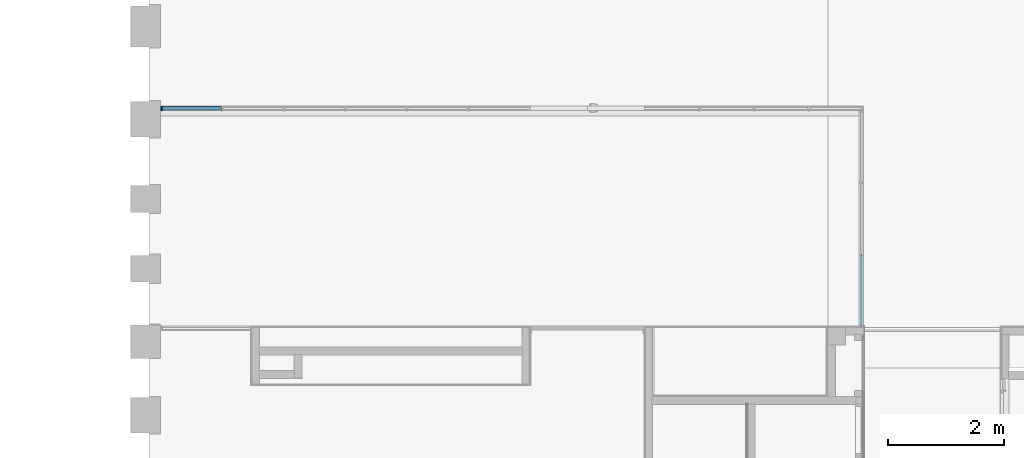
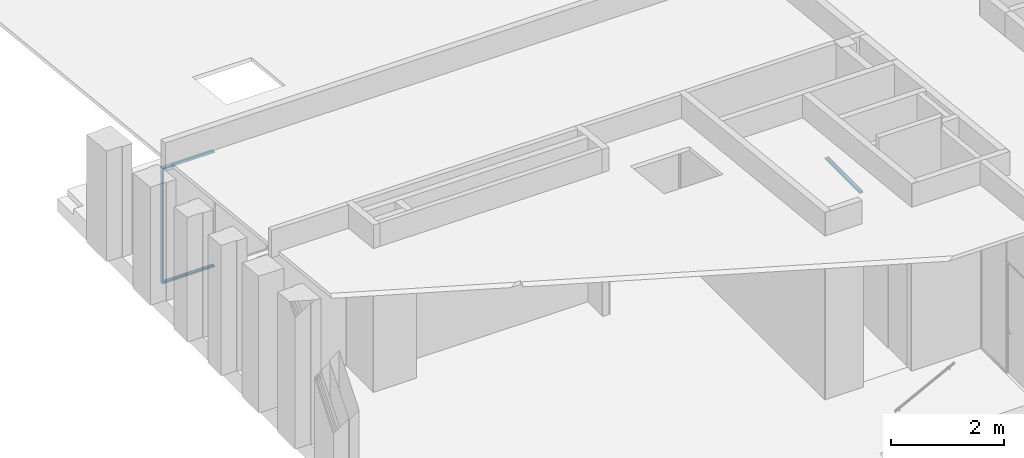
# One storey, part 13 of 43: 4 members, 2 elements without a shape of their own.
"""IFC2X3 building model written with IfcOpenShell, lengths in millimetres."""

import ifcopenshell
import ifcopenshell.guid

model = None  # the IFC model being written
_history = None  # IfcOwnerHistory: only IFC2X3 demands one
_inside = {}  # id of a spatial element -> (the spatial element, [elements in it])
_under = {}  # id of a project, library or spatial element -> (it, [spatial elements below it])
_declared = {}  # id of a project -> (the project, [libraries it declares])
_typed = {}  # id of a type object -> (the type object, [elements of that type])
_made_of = {}  # id of a material, layer set ... -> (it, [elements and type objects made of it])


def new_model(schema):
    """Start an empty IFC model of exactly this schema.

    Asked for "IFC4X3", IfcOpenShell would pick the latest addendum, in which some entities
    have other attributes; the version numbers below select the first issue.
    IFC2X3 requires an IfcOwnerHistory on every rooted entity: one is made here for all.
    """
    global model, _history
    if schema == "IFC4X3":
        model = ifcopenshell.file(schema_version=(4, 3, 0, 0))
    else:
        model = ifcopenshell.file(schema=schema)
    _inside.clear()
    _under.clear()
    _declared.clear()
    _typed.clear()
    _made_of.clear()
    _history = None
    if model.schema == "IFC2X3":
        org = make("IfcOrganization", Name="unknown")
        user = make(
            "IfcPersonAndOrganization",
            ThePerson=make("IfcPerson", FamilyName="unknown"),
            TheOrganization=org,
        )
        app = make(
            "IfcApplication",
            ApplicationDeveloper=org,
            Version="unknown",
            ApplicationFullName="unknown",
            ApplicationIdentifier="unknown",
        )
        _history = make(
            "IfcOwnerHistory",
            OwningUser=user,
            OwningApplication=app,
            ChangeAction="ADDED",
            CreationDate=0,
        )
    return model


def make(cls, **values):
    """One entity of the class cls with the attributes given. An attribute that is None is left unset."""
    return model.create_entity(
        cls, **{name: value for name, value in values.items() if value is not None}
    )


def entity(cls, *values):
    """Any entity or typed value of the class cls, its attributes in the order of the schema. None: left unset."""
    e = model.create_entity(cls)
    for i, value in enumerate(values):
        if value is not None:
            e[i] = value
    return e


def rooted(cls, **values):
    """An entity with a GlobalId (a new one), such as an element, a storey or a relation."""
    return make(cls, GlobalId=ifcopenshell.guid.new(), OwnerHistory=_history, **values)


def si_unit(unit_type, name, prefix=None):
    """IfcSIUnit, for example si_unit("LENGTHUNIT", "METRE", prefix="MILLI")."""
    return make("IfcSIUnit", UnitType=unit_type, Prefix=prefix, Name=name)


def converted_unit(unit_type, name, factor, base, dimensions=None, offset=None):
    """IfcConversionBasedUnit, such as the inch: factor (a typed value) times the base unit."""
    return make(
        "IfcConversionBasedUnit"
        if offset is None
        else "IfcConversionBasedUnitWithOffset",
        ConversionOffset=offset,
        Dimensions=None
        if dimensions is None
        else entity("IfcDimensionalExponents", *dimensions),
        UnitType=unit_type,
        Name=name,
        ConversionFactor=make(
            "IfcMeasureWithUnit", ValueComponent=factor, UnitComponent=base
        ),
    )


def derived_unit(unit_type, elements):
    """IfcDerivedUnit: a product of units, each with its exponent."""
    return make(
        "IfcDerivedUnit",
        Elements=[
            make("IfcDerivedUnitElement", Unit=unit, Exponent=power)
            for unit, power in elements
        ],
        UnitType=unit_type,
    )


def money_unit(currency):
    """IfcMonetaryUnit."""
    return make("IfcMonetaryUnit", Currency=currency)


def assignment(units):
    """IfcUnitAssignment: the units of a project."""
    return None if units is None else make("IfcUnitAssignment", Units=units)


def point(xyz):
    """IfcCartesianPoint."""
    return None if xyz is None else make("IfcCartesianPoint", Coordinates=xyz)


def direction(xyz):
    """IfcDirection."""
    return None if xyz is None else make("IfcDirection", DirectionRatios=xyz)


def frame(location, z_axis=None, x_axis=None):
    """IfcAxis2Placement3D, a coordinate frame: its origin and axes. An axis left out is left unset."""
    return make(
        "IfcAxis2Placement3D",
        Location=point(location),
        Axis=direction(z_axis),
        RefDirection=direction(x_axis),
    )


def origin_with_axes():
    """The frame at (0, 0, 0) with the z axis (0, 0, 1) and the x axis (1, 0, 0) written out."""
    return frame((0.0, 0.0, 0.0), z_axis=(0.0, 0.0, 1.0), x_axis=(1.0, 0.0, 0.0))


def place(relative_to, where):
    """IfcLocalPlacement: puts the frame where relative to a parent placement (None: the world)."""
    return make(
        "IfcLocalPlacement", PlacementRelTo=relative_to, RelativePlacement=where
    )


def context(
    kind, dimensions, precision=None, world=None, true_north=None, identifier=None
):
    """IfcGeometricRepresentationContext, for example the 3D "Model" context."""
    return make(
        "IfcGeometricRepresentationContext",
        ContextIdentifier=identifier,
        ContextType=kind,
        CoordinateSpaceDimension=dimensions,
        Precision=precision,
        WorldCoordinateSystem=world,
        TrueNorth=true_north,
    )


def subcontext(parent, identifier, kind, view, scale=None):
    """IfcGeometricRepresentationSubContext, for example "Body" below "Model"."""
    return make(
        "IfcGeometricRepresentationSubContext",
        ContextIdentifier=identifier,
        ContextType=kind,
        ParentContext=parent,
        TargetScale=scale,
        TargetView=view,
    )


def project(units=None, contexts=None):
    """IfcProject with its units and contexts."""
    return rooted(
        "IfcProject",
        Name="project",
        RepresentationContexts=contexts,
        UnitsInContext=assignment(units),
    )


def spatial(cls, under=None, at=None, **own):
    """A site, building, storey or space (cls), placed at a placement, below another one or the project."""
    s = rooted(cls, ObjectPlacement=at, **own)
    if under is not None:
        _under.setdefault(under.id(), (under, []))[1].append(s)
    return s


def faces_of(points, faces, orient=None, outer=None):
    """IfcFace entities. A face is a list of loops; a loop is a list of indices into points, from 0.

    orient and outer hold one flag for each loop. By default every Orientation is true, the
    first loop of a face is its IfcFaceOuterBound and the others are IfcFaceBound.
    """
    made = []
    for i, loops in enumerate(faces):
        bounds = []
        for j, loop in enumerate(loops):
            is_outer = j == 0 if outer is None else outer[i][j]
            bounds.append(
                make(
                    "IfcFaceOuterBound" if is_outer else "IfcFaceBound",
                    Bound=make("IfcPolyLoop", Polygon=[points[k] for k in loop]),
                    Orientation=True if orient is None else orient[i][j],
                )
            )
        made.append(make("IfcFace", Bounds=bounds))
    return made


def faceted_brep(points, faces, orient=None, outer=None, voids=None):
    """IfcFacetedBrep: a solid bounded by flat faces; with voids (closed shells), ...WithVoids."""
    shared = [point(p) for p in points]
    hull = make("IfcClosedShell", CfsFaces=faces_of(shared, faces, orient, outer))
    if voids is None:
        return make("IfcFacetedBrep", Outer=hull)
    return make(
        "IfcFacetedBrepWithVoids",
        Outer=hull,
        Voids=[
            make(cls, CfsFaces=faces_of(shared, fs, o, b)) for cls, fs, o, b in voids
        ],
    )


def shape(context_of_items, identifier, shape_type, items):
    """IfcShapeRepresentation: the items that make up one representation, for example the "Body"."""
    return make(
        "IfcShapeRepresentation",
        ContextOfItems=context_of_items,
        RepresentationIdentifier=identifier,
        RepresentationType=shape_type,
        Items=items,
    )


def material(Name=None, Category=None):
    """IfcMaterial."""
    return make("IfcMaterial", Name=Name, Category=Category)


def material_list(materials):
    """IfcMaterialList."""
    return make("IfcMaterialList", Materials=materials)


def made_of(thing, what):
    """Note that an element or type object is made of a material, layer set ...; save() writes the relation."""
    if what is not None:
        _made_of.setdefault(what.id(), (what, []))[1].append(thing)
    return thing


def type_object(cls, material=None, **own):
    """A type object (cls), such as IfcWallType, which elements share."""
    return made_of(rooted(cls, **own), material)


def element(
    cls,
    number,
    at=None,
    inside=None,
    cuts=None,
    type_object=None,
    material=None,
    context=None,
    identifier="Body",
    shape_type=None,
    held_by="IfcProductDefinitionShape",
    body=None,
    shapes=None,
    **own,
):
    """One element of the class cls, such as IfcWall. Its Tag is "e" and its number.

    at: its placement. inside: the storey or other place that contains it. cuts: it is an
    opening in that element (IfcRelVoidsElement). A single representation is given by context,
    identifier, shape_type and body (its items); several are given by shapes. held_by: the class
    of the entity that holds the representations. save() writes the other relations.
    """
    e = rooted(cls, Tag="e%d" % number, ObjectPlacement=at, **own)
    if body is not None:
        shapes = [shape(context, identifier, shape_type, body)]
    if shapes is not None:
        e.Representation = make(held_by, Representations=shapes)
    if inside is not None:
        _inside.setdefault(inside.id(), (inside, []))[1].append(e)
    if cuts is not None:
        rooted(
            "IfcRelVoidsElement", RelatingBuildingElement=cuts, RelatedOpeningElement=e
        )
    if type_object is not None:
        _typed.setdefault(type_object.id(), (type_object, []))[1].append(e)
    return made_of(e, material)


def aggregate(whole, parts):
    """IfcRelAggregates: a whole, such as a stair, and the parts it consists of."""
    return rooted("IfcRelAggregates", RelatingObject=whole, RelatedObjects=parts)


def save(model, path):
    """Write the relations noted so far, then the file.

    IfcRelAggregates (storeys below a building ...), IfcRelContainedInSpatialStructure (elements
    in a storey), IfcRelDefinesByType, IfcRelAssociatesMaterial and IfcRelDeclares: one each for
    every whole, place, type object, material and project.
    """
    for whole, parts in _under.values():
        aggregate(whole, parts)
    for where, things in _inside.values():
        rooted(
            "IfcRelContainedInSpatialStructure",
            RelatedElements=things,
            RelatingStructure=where,
        )
    for kind, things in _typed.values():
        rooted("IfcRelDefinesByType", RelatedObjects=things, RelatingType=kind)
    for what, things in _made_of.values():
        rooted("IfcRelAssociatesMaterial", RelatedObjects=things, RelatingMaterial=what)
    for by, libraries in _declared.values():
        rooted("IfcRelDeclares", RelatingContext=by, RelatedDefinitions=libraries)
    model.write(path)


model = new_model("IFC2X3")

# Units and contexts
model_context = context("Model", 3, precision=0.01, world=origin_with_axes(), true_north=direction((0.0, 1.0)))
body_context = subcontext(model_context, "Body", "Model", "MODEL_VIEW")
ifc_project = project(units=[si_unit("LENGTHUNIT", "METRE", prefix="MILLI"), si_unit("AREAUNIT", "SQUARE_METRE"), si_unit("VOLUMEUNIT", "CUBIC_METRE"), converted_unit("PLANEANGLEUNIT", "DEGREE", entity("IfcPlaneAngleMeasure", 0.0174532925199), si_unit("PLANEANGLEUNIT", "RADIAN"), dimensions=[0, 0, 0, 0, 0, 0, 0]), si_unit("SOLIDANGLEUNIT", "STERADIAN"), money_unit("EUR"), converted_unit("TIMEUNIT", "Year", entity("IfcTimeMeasure", 31556926.0), si_unit("TIMEUNIT", "SECOND"), dimensions=[0, 0, 1, 0, 0, 0, 0]), si_unit("MASSUNIT", "GRAM", prefix="KILO"), si_unit("THERMODYNAMICTEMPERATUREUNIT", "DEGREE_CELSIUS"), si_unit("LUMINOUSINTENSITYUNIT", "LUMEN"), si_unit("ENERGYUNIT", "JOULE", prefix="MEGA"), derived_unit("THERMALCONDUCTANCEUNIT", [(si_unit("POWERUNIT", "WATT"), 1), (si_unit("LENGTHUNIT", "METRE"), -1), (si_unit("THERMODYNAMICTEMPERATUREUNIT", "KELVIN"), -1)]), derived_unit("SPECIFICHEATCAPACITYUNIT", [(si_unit("ENERGYUNIT", "JOULE"), 1), (si_unit("MASSUNIT", "GRAM", prefix="KILO"), -1), (si_unit("THERMODYNAMICTEMPERATUREUNIT", "KELVIN"), -1)]), derived_unit("MASSDENSITYUNIT", [(si_unit("MASSUNIT", "GRAM", prefix="KILO"), 1), (si_unit("VOLUMEUNIT", "CUBIC_METRE"), -1)])], contexts=[model_context])

# Site, building, storey
site_placement = place(None, origin_with_axes())
site = spatial("IfcSite", under=ifc_project, at=site_placement, Name="L.Koidula tn 11b", CompositionType="ELEMENT")
building_placement = place(site_placement, origin_with_axes())
building = spatial("IfcBuilding", under=site, at=building_placement, Name="Rakvere Riigigümnaasium", CompositionType="ELEMENT")
storey_placement = place(building_placement, frame((0.0, 0.0, 6665.0), z_axis=(0.0, 0.0, 1.0), x_axis=(1.0, 0.0, 0.0)))
storey = spatial("IfcBuildingStorey", under=building, at=storey_placement, Name="3.korrus +6,66", CompositionType="ELEMENT", Elevation=6665.0)

# Curtain wall, members
curtain_wall_type = type_object("IfcCurtainWallType", Name="Curtain Wall Type", PredefinedType="NOTDEFINED")
curtain_wall_1_placement = place(storey_placement, frame((45254.9999955, 28178.4554945, 0.0), z_axis=(0.0, 0.0, 1.0), x_axis=(1.0, 0.0, 0.0)))
curtain_wall_1 = element("IfcCurtainWall", 1, at=curtain_wall_1_placement, inside=storey, type_object=curtain_wall_type, Name="SKLF-26")
ifc_material_1 = material(Name="Klaasvill")
ifc_material_2 = material(Name="Teras RAL7012")
ifc_material_list = material_list([ifc_material_1, ifc_material_2])
member_type = type_object("IfcMemberType", Name="Boundary Frame 30 x 42", PredefinedType="MULLION")
member_1_placement = place(curtain_wall_1_placement, frame((-8694.0, 0.0, 0.0), z_axis=(-1.0, 0.0, 0.0), x_axis=(0.0, 0.0, 1.0)))
member_1 = element("IfcMember", 2, at=member_1_placement, type_object=member_type, material=ifc_material_list, Name="SKLF-22-raam", ObjectType="MULLION", context=body_context, shape_type="Brep", body=[
    faceted_brep([(7.49999990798, 15.000000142, 0.0), (13.8499999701, 15.000000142, 0.0), (13.8499999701, 15.000000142, 1047.15023765), (7.49999990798, 15.000000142, 1053.50023772), (7.49999990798, 29.0161444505, 0.0), (13.8499999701, 29.0161444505, 0.0), (13.8499999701, 29.0161444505, 1047.15023765), (7.49999990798, 29.0161444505, 1053.50023772)], [[[0, 1, 2, 3]], [[0, 4, 5, 1]], [[1, 5, 6, 2]], [[3, 2, 6, 7]], [[4, 0, 3, 7]], [[5, 4, 7, 6]]]),
    faceted_brep([(24.987414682, 29.0161444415, 0.0), (25.004489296, 27.0307503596, 0.0), (25.004489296, 27.0307503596, 1035.99574833), (24.987414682, 29.0161444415, 1036.01282294), (28.5126239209, 29.0161444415, 0.0), (28.7655837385, 28.0385325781, 0.0), (28.4955493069, 27.0307503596, 0.0), (27.75780152, 26.2930025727, 0.0), (26.7500193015, 26.0229681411, 0.0), (25.742237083, 26.2930025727, 0.0), (25.742237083, 26.2930025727, 1035.25800054), (26.7500193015, 26.0229681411, 1034.25021832), (27.75780152, 26.2930025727, 1033.24243611), (28.4955493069, 27.0307503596, 1032.50468832), (28.7655837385, 28.0385325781, 1032.23465389), (28.5126239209, 29.0161444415, 1032.4876137)], [[[0, 1, 2, 3]], [[0, 4, 5, 6, 7, 8, 9, 1]], [[1, 9, 10, 2]], [[3, 2, 10, 11, 12, 13, 14, 15]], [[4, 0, 3, 15]], [[5, 4, 15, 14]], [[6, 5, 14, 13]], [[7, 6, 13, 12]], [[8, 7, 12, 11]], [[9, 8, 11, 10]]]),
    faceted_brep([(7.49999990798, -24.9999997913, 0.0), (7.49999990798, -39.0161445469, 0.0), (7.49999990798, -39.0161445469, 1053.50023772), (7.49999990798, -24.9999997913, 1053.50023772), (13.8499999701, -24.9999997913, 0.0), (13.8499999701, -39.0161445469, 0.0), (13.8499999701, -39.0161445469, 1047.15023765), (13.8499999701, -24.9999997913, 1047.15023765)], [[[0, 1, 2, 3]], [[0, 4, 5, 1]], [[1, 5, 6, 2]], [[3, 2, 6, 7]], [[4, 0, 3, 7]], [[5, 4, 7, 6]]]),
    faceted_brep([(25.004489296, -37.0307503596, 0.0), (24.987414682, -39.0161444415, 0.0), (24.987414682, -39.0161444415, 1036.01282294), (25.004489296, -37.0307503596, 1035.99574833), (25.742237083, -36.2930025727, 0.0), (26.7500193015, -36.0229681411, 0.0), (27.75780152, -36.2930025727, 0.0), (28.4955493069, -37.0307503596, 0.0), (28.7655837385, -38.0385325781, 0.0), (28.5126239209, -39.0161444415, 0.0), (28.5126239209, -39.0161444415, 1032.4876137), (28.7655837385, -38.0385325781, 1032.23465389), (28.4955493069, -37.0307503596, 1032.50468832), (27.75780152, -36.2930025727, 1033.24243611), (26.7500193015, -36.0229681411, 1034.25021832), (25.742237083, -36.2930025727, 1035.25800054)], [[[0, 1, 2, 3]], [[0, 4, 5, 6, 7, 8, 9, 1]], [[1, 9, 10, 2]], [[3, 2, 10, 11, 12, 13, 14, 15]], [[4, 0, 3, 15]], [[5, 4, 15, 14]], [[6, 5, 14, 13]], [[7, 6, 13, 12]], [[8, 7, 12, 11]], [[9, 8, 11, 10]]]),
    faceted_brep([(0.0, -22.0000000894, 0.0), (29.5999996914, -22.0000000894, 0.0), (29.5999996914, -22.0000000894, 1031.40023793), (0.0, -22.0000000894, 1061.00023763), (0.0, 12.0000000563, 0.0), (29.5999996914, 12.0000000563, 0.0), (1.9999999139, 10.0000001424, 0.0), (1.9999999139, -20.0000001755, 0.0), (18.7999996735, -20.0000001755, 0.0), (18.7999996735, 10.0000001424, 0.0), (29.5999996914, 12.0000000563, 1031.40023793), (0.0, 12.0000000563, 1061.00023763), (1.9999999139, 10.0000001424, 1059.00023771), (18.7999996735, 10.0000001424, 1042.20023795), (18.7999996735, -20.0000001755, 1042.20023795), (1.9999999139, -20.0000001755, 1059.00023771)], [[[0, 1, 2, 3]], [[0, 4, 5, 1], [6, 7, 8, 9]], [[1, 5, 10, 2]], [[3, 2, 10, 11], [12, 13, 14, 15]], [[4, 0, 3, 11]], [[5, 4, 11, 10]], [[7, 6, 12, 15]], [[8, 7, 15, 14]], [[9, 8, 14, 13]], [[6, 9, 13, 12]]]),
    faceted_brep([(0.0, 12.0, 0.0), (29.5999996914, 12.0000000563, 0.0), (29.5999996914, 12.0000000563, 1031.40023793), (0.0, 12.0, 1061.00023763), (0.0, 32.0, 0.0), (30.0000193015, 32.0, 0.0), (30.0000193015, 29.0161444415, 0.0), (28.5126239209, 29.0161444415, 0.0), (24.987414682, 29.0161444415, 0.0), (13.8499999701, 29.0161444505, 0.0), (7.49999999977, 29.0161444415, 0.0), (7.49999999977, 15.0, 0.0), (13.8499999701, 15.000000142, 0.0), (30.0000193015, 15.0, 0.0), (30.0000193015, 12.0, 0.0), (30.0000193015, 12.0, 1031.00021832), (30.0000193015, 15.0, 1031.00021832), (13.8499999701, 15.000000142, 1047.15023765), (7.49999999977, 15.0, 1053.50023763), (7.49999999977, 29.0161444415, 1053.50023763), (13.8499999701, 29.0161444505, 1047.15023765), (24.987414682, 29.0161444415, 1036.01282294), (28.5126239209, 29.0161444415, 1032.4876137), (30.0000193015, 29.0161444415, 1031.00021832), (30.0000193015, 32.0, 1031.00021832), (0.0, 32.0, 1061.00023763)], [[[0, 1, 2, 3]], [[0, 4, 5, 6, 7, 8, 9, 10, 11, 12, 13, 14, 1]], [[1, 14, 15, 2]], [[3, 2, 15, 16, 17, 18, 19, 20, 21, 22, 23, 24, 25]], [[4, 0, 3, 25]], [[5, 4, 25, 24]], [[6, 5, 24, 23]], [[7, 6, 23, 22]], [[8, 7, 22, 21]], [[9, 8, 21, 20]], [[10, 9, 20, 19]], [[11, 10, 19, 18]], [[12, 11, 18, 17]], [[13, 12, 17, 16]], [[14, 13, 16, 15]]]),
    faceted_brep([(0.0, -22.0, 0.0), (0.0, -42.0, 0.0), (0.0, -42.0, 1061.00023763), (0.0, -22.0, 1061.00023763), (29.5999996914, -22.0000000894, 0.0), (30.0000193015, -22.0, 0.0), (30.0000193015, -25.0, 0.0), (13.8499999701, -24.9999997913, 0.0), (7.49999999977, -25.0, 0.0), (7.49999999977, -39.0161444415, 0.0), (13.8499999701, -39.0161445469, 0.0), (24.987414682, -39.0161444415, 0.0), (28.5126239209, -39.0161444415, 0.0), (30.0000193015, -39.0161444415, 0.0), (30.0000193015, -42.0, 0.0), (30.0000193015, -42.0, 1031.00021832), (30.0000193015, -39.0161444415, 1031.00021832), (28.5126239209, -39.0161444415, 1032.4876137), (24.987414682, -39.0161444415, 1036.01282294), (13.8499999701, -39.0161445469, 1047.15023765), (7.49999999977, -39.0161444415, 1053.50023763), (7.49999999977, -25.0, 1053.50023763), (13.8499999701, -24.9999997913, 1047.15023765), (30.0000193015, -25.0, 1031.00021832), (30.0000193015, -22.0, 1031.00021832), (29.5999996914, -22.0000000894, 1031.40023793)], [[[0, 1, 2, 3]], [[0, 4, 5, 6, 7, 8, 9, 10, 11, 12, 13, 14, 1]], [[1, 14, 15, 2]], [[3, 2, 15, 16, 17, 18, 19, 20, 21, 22, 23, 24, 25]], [[4, 0, 3, 25]], [[5, 4, 25, 24]], [[6, 5, 24, 23]], [[7, 6, 23, 22]], [[8, 7, 22, 21]], [[9, 8, 21, 20]], [[10, 9, 20, 19]], [[11, 10, 19, 18]], [[12, 11, 18, 17]], [[13, 12, 17, 16]], [[14, 13, 16, 15]]]),
])
member_2_placement = place(curtain_wall_1_placement, frame((-9755.00023763, 0.0, 2489.99984217), z_axis=(1.0, 0.0, 0.0), x_axis=(0.0, 0.0, -1.0)))
member_2 = element("IfcMember", 3, at=member_2_placement, type_object=member_type, material=ifc_material_list, Name="SKLF-24-raam", ObjectType="MULLION", context=body_context, shape_type="Brep", body=[
    faceted_brep([(13.8499999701, 15.000000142, 13.8499999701), (13.8499999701, 15.000000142, 1061.00023763), (7.49999990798, 15.000000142, 1061.00023763), (7.49999990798, 15.000000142, 7.49999990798), (13.8499999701, 29.0161444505, 13.8499999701), (13.8499999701, 29.0161444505, 1061.00023763), (7.49999990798, 29.0161444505, 1061.00023763), (7.49999990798, 29.0161444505, 7.49999990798)], [[[0, 1, 2, 3]], [[4, 5, 1, 0]], [[2, 1, 5, 6]], [[3, 2, 6, 7]], [[3, 7, 4, 0]], [[7, 6, 5, 4]]]),
    faceted_brep([(25.004489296, 27.0307503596, 25.004489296), (25.004489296, 27.0307503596, 1061.00023763), (24.987414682, 29.0161444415, 1061.00023763), (24.987414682, 29.0161444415, 24.987414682), (25.742237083, 26.2930025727, 25.742237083), (25.742237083, 26.2930025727, 1061.00023763), (26.7500193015, 26.0229681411, 1061.00023763), (27.75780152, 26.2930025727, 1061.00023763), (28.4955493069, 27.0307503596, 1061.00023763), (28.7655837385, 28.0385325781, 1061.00023763), (28.5126239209, 29.0161444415, 1061.00023763), (28.5126239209, 29.0161444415, 28.5126239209), (28.7655837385, 28.0385325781, 28.7655837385), (28.4955493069, 27.0307503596, 28.4955493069), (27.75780152, 26.2930025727, 27.75780152), (26.7500193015, 26.0229681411, 26.7500193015)], [[[0, 1, 2, 3]], [[4, 5, 1, 0]], [[2, 1, 5, 6, 7, 8, 9, 10]], [[3, 2, 10, 11]], [[3, 11, 12, 13, 14, 15, 4, 0]], [[15, 6, 5, 4]], [[14, 7, 6, 15]], [[13, 8, 7, 14]], [[12, 9, 8, 13]], [[11, 10, 9, 12]]]),
    faceted_brep([(7.49999990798, -39.0161445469, 7.49999990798), (7.49999990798, -39.0161445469, 1061.00023763), (7.49999990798, -24.9999997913, 1061.00023763), (7.49999990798, -24.9999997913, 7.49999990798), (13.8499999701, -39.0161445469, 13.8499999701), (13.8499999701, -39.0161445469, 1061.00023763), (13.8499999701, -24.9999997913, 1061.00023763), (13.8499999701, -24.9999997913, 13.8499999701)], [[[0, 1, 2, 3]], [[4, 5, 1, 0]], [[2, 1, 5, 6]], [[3, 2, 6, 7]], [[3, 7, 4, 0]], [[7, 6, 5, 4]]]),
    faceted_brep([(24.987414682, -39.0161444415, 24.987414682), (24.987414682, -39.0161444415, 1061.00023763), (25.004489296, -37.0307503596, 1061.00023763), (25.004489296, -37.0307503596, 25.004489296), (28.5126239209, -39.0161444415, 28.5126239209), (28.5126239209, -39.0161444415, 1061.00023763), (28.7655837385, -38.0385325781, 1061.00023763), (28.4955493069, -37.0307503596, 1061.00023763), (27.75780152, -36.2930025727, 1061.00023763), (26.7500193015, -36.0229681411, 1061.00023763), (25.742237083, -36.2930025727, 1061.00023763), (25.742237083, -36.2930025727, 25.742237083), (26.7500193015, -36.0229681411, 26.7500193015), (27.75780152, -36.2930025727, 27.75780152), (28.4955493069, -37.0307503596, 28.4955493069), (28.7655837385, -38.0385325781, 28.7655837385)], [[[0, 1, 2, 3]], [[4, 5, 1, 0]], [[2, 1, 5, 6, 7, 8, 9, 10]], [[3, 2, 10, 11]], [[3, 11, 12, 13, 14, 15, 4, 0]], [[15, 6, 5, 4]], [[14, 7, 6, 15]], [[13, 8, 7, 14]], [[12, 9, 8, 13]], [[11, 10, 9, 12]]]),
    faceted_brep([(29.5999996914, -22.0000000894, 29.5999996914), (29.5999996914, -22.0000000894, 1061.00023763), (0.0, -22.0000000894, 1061.00023763), (0.0, -22.0000000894, 0.0), (29.5999996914, 12.0000000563, 29.5999996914), (29.5999996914, 12.0000000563, 1061.00023763), (0.0, 12.0000000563, 1061.00023763), (1.9999999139, 10.0000001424, 1061.00023763), (18.7999996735, 10.0000001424, 1061.00023763), (18.7999996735, -20.0000001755, 1061.00023763), (1.9999999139, -20.0000001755, 1061.00023763), (0.0, 12.0000000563, 0.0), (1.9999999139, 10.0000001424, 1.9999999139), (1.9999999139, -20.0000001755, 1.9999999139), (18.7999996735, -20.0000001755, 18.7999996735), (18.7999996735, 10.0000001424, 18.7999996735)], [[[0, 1, 2, 3]], [[4, 5, 1, 0]], [[2, 1, 5, 6], [7, 8, 9, 10]], [[3, 2, 6, 11]], [[3, 11, 4, 0], [12, 13, 14, 15]], [[11, 6, 5, 4]], [[15, 8, 7, 12]], [[14, 9, 8, 15]], [[13, 10, 9, 14]], [[12, 7, 10, 13]]]),
    faceted_brep([(29.5999996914, 12.0000000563, 29.5999996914), (29.5999996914, 12.0000000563, 1061.00023763), (0.0, 12.0, 1061.00023763), (0.0, 12.0, 0.0), (30.0000193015, 12.0, 30.0000193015), (30.0000193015, 12.0, 1061.00023763), (30.0000193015, 15.0, 1061.00023763), (13.8499999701, 15.000000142, 1061.00023763), (7.49999999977, 15.0, 1061.00023763), (7.49999999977, 29.0161444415, 1061.00023763), (13.8499999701, 29.0161444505, 1061.00023763), (24.987414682, 29.0161444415, 1061.00023763), (28.5126239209, 29.0161444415, 1061.00023763), (30.0000193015, 29.0161444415, 1061.00023763), (30.0000193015, 32.0, 1061.00023763), (0.0, 32.0, 1061.00023763), (0.0, 32.0, 0.0), (30.0000193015, 32.0, 30.0000193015), (30.0000193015, 29.0161444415, 30.0000193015), (28.5126239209, 29.0161444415, 28.5126239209), (24.987414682, 29.0161444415, 24.987414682), (13.8499999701, 29.0161444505, 13.8499999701), (7.49999999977, 29.0161444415, 7.49999999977), (7.49999999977, 15.0, 7.49999999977), (13.8499999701, 15.000000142, 13.8499999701), (30.0000193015, 15.0, 30.0000193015)], [[[0, 1, 2, 3]], [[4, 5, 1, 0]], [[2, 1, 5, 6, 7, 8, 9, 10, 11, 12, 13, 14, 15]], [[3, 2, 15, 16]], [[3, 16, 17, 18, 19, 20, 21, 22, 23, 24, 25, 4, 0]], [[25, 6, 5, 4]], [[24, 7, 6, 25]], [[23, 8, 7, 24]], [[22, 9, 8, 23]], [[21, 10, 9, 22]], [[20, 11, 10, 21]], [[19, 12, 11, 20]], [[18, 13, 12, 19]], [[17, 14, 13, 18]], [[16, 15, 14, 17]]]),
    faceted_brep([(0.0, -42.0, 0.0), (0.0, -42.0, 1061.00023763), (0.0, -22.0, 1061.00023763), (0.0, -22.0, 0.0), (30.0000193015, -42.0, 30.0000193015), (30.0000193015, -42.0, 1061.00023763), (30.0000193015, -39.0161444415, 1061.00023763), (28.5126239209, -39.0161444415, 1061.00023763), (24.987414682, -39.0161444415, 1061.00023763), (13.8499999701, -39.0161445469, 1061.00023763), (7.49999999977, -39.0161444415, 1061.00023763), (7.49999999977, -25.0, 1061.00023763), (13.8499999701, -24.9999997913, 1061.00023763), (30.0000193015, -25.0, 1061.00023763), (30.0000193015, -22.0, 1061.00023763), (29.5999996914, -22.0000000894, 1061.00023763), (29.5999996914, -22.0000000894, 29.5999996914), (30.0000193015, -22.0, 30.0000193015), (30.0000193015, -25.0, 30.0000193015), (13.8499999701, -24.9999997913, 13.8499999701), (7.49999999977, -25.0, 7.49999999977), (7.49999999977, -39.0161444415, 7.49999999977), (13.8499999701, -39.0161445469, 13.8499999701), (24.987414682, -39.0161444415, 24.987414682), (28.5126239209, -39.0161444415, 28.5126239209), (30.0000193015, -39.0161444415, 30.0000193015)], [[[0, 1, 2, 3]], [[4, 5, 1, 0]], [[2, 1, 5, 6, 7, 8, 9, 10, 11, 12, 13, 14, 15]], [[3, 2, 15, 16]], [[3, 16, 17, 18, 19, 20, 21, 22, 23, 24, 25, 4, 0]], [[25, 6, 5, 4]], [[24, 7, 6, 25]], [[23, 8, 7, 24]], [[22, 9, 8, 23]], [[21, 10, 9, 22]], [[20, 11, 10, 21]], [[19, 12, 11, 20]], [[18, 13, 12, 19]], [[17, 14, 13, 18]], [[16, 15, 14, 17]]]),
])
member_3_placement = place(curtain_wall_1_placement, frame((-9755.00023763, 0.0, 0.0), z_axis=(0.0, 0.0, 1.0), x_axis=(1.0, 0.0, 0.0)))
member_3 = element("IfcMember", 4, at=member_3_placement, type_object=member_type, material=ifc_material_list, Name="SKLF-23-raam", ObjectType="MULLION", context=body_context, shape_type="Brep", body=[
    faceted_brep([(13.8499999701, 15.000000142, 13.8499999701), (13.8499999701, 15.000000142, 2476.1498422), (7.49999990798, 15.000000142, 2482.49984226), (7.49999990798, 15.000000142, 7.49999990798), (13.8499999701, 29.0161444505, 13.8499999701), (13.8499999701, 29.0161444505, 2476.1498422), (7.49999990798, 29.0161444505, 2482.49984226), (7.49999990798, 29.0161444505, 7.49999990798)], [[[0, 1, 2, 3]], [[4, 5, 1, 0]], [[2, 1, 5, 6]], [[3, 2, 6, 7]], [[3, 7, 4, 0]], [[7, 6, 5, 4]]]),
    faceted_brep([(25.004489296, 27.0307503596, 25.004489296), (25.004489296, 27.0307503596, 2464.99535287), (24.987414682, 29.0161444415, 2465.01242749), (24.987414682, 29.0161444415, 24.987414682), (25.742237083, 26.2930025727, 25.742237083), (25.742237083, 26.2930025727, 2464.25760509), (26.7500193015, 26.0229681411, 2463.24982287), (27.75780152, 26.2930025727, 2462.24204065), (28.4955493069, 27.0307503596, 2461.50429286), (28.7655837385, 28.0385325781, 2461.23425843), (28.5126239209, 29.0161444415, 2461.48721825), (28.5126239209, 29.0161444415, 28.5126239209), (28.7655837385, 28.0385325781, 28.7655837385), (28.4955493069, 27.0307503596, 28.4955493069), (27.75780152, 26.2930025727, 27.75780152), (26.7500193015, 26.0229681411, 26.7500193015)], [[[0, 1, 2, 3]], [[4, 5, 1, 0]], [[2, 1, 5, 6, 7, 8, 9, 10]], [[3, 2, 10, 11]], [[3, 11, 12, 13, 14, 15, 4, 0]], [[15, 6, 5, 4]], [[14, 7, 6, 15]], [[13, 8, 7, 14]], [[12, 9, 8, 13]], [[11, 10, 9, 12]]]),
    faceted_brep([(7.49999990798, -39.0161445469, 7.49999990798), (7.49999990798, -39.0161445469, 2482.49984226), (7.49999990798, -24.9999997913, 2482.49984226), (7.49999990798, -24.9999997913, 7.49999990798), (13.8499999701, -39.0161445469, 13.8499999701), (13.8499999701, -39.0161445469, 2476.1498422), (13.8499999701, -24.9999997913, 2476.1498422), (13.8499999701, -24.9999997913, 13.8499999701)], [[[0, 1, 2, 3]], [[4, 5, 1, 0]], [[2, 1, 5, 6]], [[3, 2, 6, 7]], [[3, 7, 4, 0]], [[7, 6, 5, 4]]]),
    faceted_brep([(24.987414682, -39.0161444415, 24.987414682), (24.987414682, -39.0161444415, 2465.01242749), (25.004489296, -37.0307503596, 2464.99535287), (25.004489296, -37.0307503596, 25.004489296), (28.5126239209, -39.0161444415, 28.5126239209), (28.5126239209, -39.0161444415, 2461.48721825), (28.7655837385, -38.0385325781, 2461.23425843), (28.4955493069, -37.0307503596, 2461.50429286), (27.75780152, -36.2930025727, 2462.24204065), (26.7500193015, -36.0229681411, 2463.24982287), (25.742237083, -36.2930025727, 2464.25760509), (25.742237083, -36.2930025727, 25.742237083), (26.7500193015, -36.0229681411, 26.7500193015), (27.75780152, -36.2930025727, 27.75780152), (28.4955493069, -37.0307503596, 28.4955493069), (28.7655837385, -38.0385325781, 28.7655837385)], [[[0, 1, 2, 3]], [[4, 5, 1, 0]], [[2, 1, 5, 6, 7, 8, 9, 10]], [[3, 2, 10, 11]], [[3, 11, 12, 13, 14, 15, 4, 0]], [[15, 6, 5, 4]], [[14, 7, 6, 15]], [[13, 8, 7, 14]], [[12, 9, 8, 13]], [[11, 10, 9, 12]]]),
    faceted_brep([(29.5999996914, -22.0000000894, 29.5999996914), (29.5999996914, -22.0000000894, 2460.39984248), (0.0, -22.0000000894, 2489.99984217), (0.0, -22.0000000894, 0.0), (29.5999996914, 12.0000000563, 29.5999996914), (29.5999996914, 12.0000000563, 2460.39984248), (0.0, 12.0000000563, 2489.99984217), (1.9999999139, 10.0000001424, 2487.99984226), (18.7999996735, 10.0000001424, 2471.1998425), (18.7999996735, -20.0000001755, 2471.1998425), (1.9999999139, -20.0000001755, 2487.99984226), (0.0, 12.0000000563, 0.0), (1.9999999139, 10.0000001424, 1.9999999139), (1.9999999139, -20.0000001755, 1.9999999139), (18.7999996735, -20.0000001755, 18.7999996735), (18.7999996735, 10.0000001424, 18.7999996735)], [[[0, 1, 2, 3]], [[4, 5, 1, 0]], [[2, 1, 5, 6], [7, 8, 9, 10]], [[3, 2, 6, 11]], [[3, 11, 4, 0], [12, 13, 14, 15]], [[11, 6, 5, 4]], [[15, 8, 7, 12]], [[14, 9, 8, 15]], [[13, 10, 9, 14]], [[12, 7, 10, 13]]]),
    faceted_brep([(29.5999996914, 12.0000000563, 29.5999996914), (29.5999996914, 12.0000000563, 2460.39984248), (0.0, 12.0, 2489.99984217), (0.0, 12.0, 0.0), (30.0000193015, 12.0, 30.0000193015), (30.0000193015, 12.0, 2459.99982287), (30.0000193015, 15.0, 2459.99982287), (13.8499999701, 15.000000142, 2476.1498422), (7.49999999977, 15.0, 2482.49984217), (7.49999999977, 29.0161444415, 2482.49984217), (13.8499999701, 29.0161444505, 2476.1498422), (24.987414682, 29.0161444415, 2465.01242749), (28.5126239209, 29.0161444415, 2461.48721825), (30.0000193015, 29.0161444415, 2459.99982287), (30.0000193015, 32.0, 2459.99982287), (0.0, 32.0, 2489.99984217), (0.0, 32.0, 0.0), (30.0000193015, 32.0, 30.0000193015), (30.0000193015, 29.0161444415, 30.0000193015), (28.5126239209, 29.0161444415, 28.5126239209), (24.987414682, 29.0161444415, 24.987414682), (13.8499999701, 29.0161444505, 13.8499999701), (7.49999999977, 29.0161444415, 7.49999999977), (7.49999999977, 15.0, 7.49999999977), (13.8499999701, 15.000000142, 13.8499999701), (30.0000193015, 15.0, 30.0000193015)], [[[0, 1, 2, 3]], [[4, 5, 1, 0]], [[2, 1, 5, 6, 7, 8, 9, 10, 11, 12, 13, 14, 15]], [[3, 2, 15, 16]], [[3, 16, 17, 18, 19, 20, 21, 22, 23, 24, 25, 4, 0]], [[25, 6, 5, 4]], [[24, 7, 6, 25]], [[23, 8, 7, 24]], [[22, 9, 8, 23]], [[21, 10, 9, 22]], [[20, 11, 10, 21]], [[19, 12, 11, 20]], [[18, 13, 12, 19]], [[17, 14, 13, 18]], [[16, 15, 14, 17]]]),
    faceted_brep([(0.0, -42.0, 0.0), (0.0, -42.0, 2489.99984217), (0.0, -22.0, 2489.99984217), (0.0, -22.0, 0.0), (30.0000193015, -42.0, 30.0000193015), (30.0000193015, -42.0, 2459.99982287), (30.0000193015, -39.0161444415, 2459.99982287), (28.5126239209, -39.0161444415, 2461.48721825), (24.987414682, -39.0161444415, 2465.01242749), (13.8499999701, -39.0161445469, 2476.1498422), (7.49999999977, -39.0161444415, 2482.49984217), (7.49999999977, -25.0, 2482.49984217), (13.8499999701, -24.9999997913, 2476.1498422), (30.0000193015, -25.0, 2459.99982287), (30.0000193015, -22.0, 2459.99982287), (29.5999996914, -22.0000000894, 2460.39984248), (29.5999996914, -22.0000000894, 29.5999996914), (30.0000193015, -22.0, 30.0000193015), (30.0000193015, -25.0, 30.0000193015), (13.8499999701, -24.9999997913, 13.8499999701), (7.49999999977, -25.0, 7.49999999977), (7.49999999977, -39.0161444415, 7.49999999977), (13.8499999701, -39.0161445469, 13.8499999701), (24.987414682, -39.0161444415, 24.987414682), (28.5126239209, -39.0161444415, 28.5126239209), (30.0000193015, -39.0161444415, 30.0000193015)], [[[0, 1, 2, 3]], [[4, 5, 1, 0]], [[2, 1, 5, 6, 7, 8, 9, 10, 11, 12, 13, 14, 15]], [[3, 2, 15, 16]], [[3, 16, 17, 18, 19, 20, 21, 22, 23, 24, 25, 4, 0]], [[25, 6, 5, 4]], [[24, 7, 6, 25]], [[23, 8, 7, 24]], [[22, 9, 8, 23]], [[21, 10, 9, 22]], [[20, 11, 10, 21]], [[19, 12, 11, 20]], [[18, 13, 12, 19]], [[17, 14, 13, 18]], [[16, 15, 14, 17]]]),
])
aggregate(curtain_wall_1, [member_1, member_2, member_3])

# Curtain wall, member
curtain_wall_2_placement = place(storey_placement, frame((47567.9999955, 27513.9554945, 0.0), z_axis=(0.0, 0.0, 1.0), x_axis=(1.0, 0.0, 0.0)))
curtain_wall_2 = element("IfcCurtainWall", 5, at=curtain_wall_2_placement, inside=storey, type_object=curtain_wall_type, Name="SKLF-27")
member_4_placement = place(curtain_wall_2_placement, frame((0.0, -1868.5, 0.0), z_axis=(0.0, -1.0, 0.0), x_axis=(0.0, 0.0, 1.0)))
member_4 = element("IfcMember", 6, at=member_4_placement, type_object=member_type, material=ifc_material_list, Name="SKLF-03-raam", ObjectType="MULLION", context=body_context, shape_type="Brep", body=[
    faceted_brep([(7.49999990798, 15.000000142, 0.0), (13.8499999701, 15.000000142, 0.0), (13.8499999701, 15.000000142, 1231.15000003), (7.49999990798, 15.000000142, 1237.50000009), (7.49999990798, 29.0161444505, 0.0), (13.8499999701, 29.0161444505, 0.0), (13.8499999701, 29.0161444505, 1231.15000003), (7.49999990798, 29.0161444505, 1237.50000009)], [[[0, 1, 2, 3]], [[0, 4, 5, 1]], [[1, 5, 6, 2]], [[3, 2, 6, 7]], [[4, 0, 3, 7]], [[5, 4, 7, 6]]]),
    faceted_brep([(24.987414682, 29.0161444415, 0.0), (25.004489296, 27.0307503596, 0.0), (25.004489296, 27.0307503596, 1219.9955107), (24.987414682, 29.0161444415, 1220.01258532), (28.5126239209, 29.0161444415, 0.0), (28.7655837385, 28.0385325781, 0.0), (28.4955493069, 27.0307503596, 0.0), (27.75780152, 26.2930025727, 0.0), (26.7500193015, 26.0229681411, 0.0), (25.742237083, 26.2930025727, 0.0), (25.742237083, 26.2930025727, 1219.25776292), (26.7500193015, 26.0229681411, 1218.2499807), (27.75780152, 26.2930025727, 1217.24219848), (28.4955493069, 27.0307503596, 1216.50445069), (28.7655837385, 28.0385325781, 1216.23441626), (28.5126239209, 29.0161444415, 1216.48737608)], [[[0, 1, 2, 3]], [[0, 4, 5, 6, 7, 8, 9, 1]], [[1, 9, 10, 2]], [[3, 2, 10, 11, 12, 13, 14, 15]], [[4, 0, 3, 15]], [[5, 4, 15, 14]], [[6, 5, 14, 13]], [[7, 6, 13, 12]], [[8, 7, 12, 11]], [[9, 8, 11, 10]]]),
    faceted_brep([(7.49999990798, -24.9999997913, 0.0), (7.49999990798, -39.0161445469, 0.0), (7.49999990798, -39.0161445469, 1237.50000009), (7.49999990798, -24.9999997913, 1237.50000009), (13.8499999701, -24.9999997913, 0.0), (13.8499999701, -39.0161445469, 0.0), (13.8499999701, -39.0161445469, 1231.15000003), (13.8499999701, -24.9999997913, 1231.15000003)], [[[0, 1, 2, 3]], [[0, 4, 5, 1]], [[1, 5, 6, 2]], [[3, 2, 6, 7]], [[4, 0, 3, 7]], [[5, 4, 7, 6]]]),
    faceted_brep([(25.004489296, -37.0307503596, 0.0), (24.987414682, -39.0161444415, 0.0), (24.987414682, -39.0161444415, 1220.01258532), (25.004489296, -37.0307503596, 1219.9955107), (25.742237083, -36.2930025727, 0.0), (26.7500193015, -36.0229681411, 0.0), (27.75780152, -36.2930025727, 0.0), (28.4955493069, -37.0307503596, 0.0), (28.7655837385, -38.0385325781, 0.0), (28.5126239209, -39.0161444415, 0.0), (28.5126239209, -39.0161444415, 1216.48737608), (28.7655837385, -38.0385325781, 1216.23441626), (28.4955493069, -37.0307503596, 1216.50445069), (27.75780152, -36.2930025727, 1217.24219848), (26.7500193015, -36.0229681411, 1218.2499807), (25.742237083, -36.2930025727, 1219.25776292)], [[[0, 1, 2, 3]], [[0, 4, 5, 6, 7, 8, 9, 1]], [[1, 9, 10, 2]], [[3, 2, 10, 11, 12, 13, 14, 15]], [[4, 0, 3, 15]], [[5, 4, 15, 14]], [[6, 5, 14, 13]], [[7, 6, 13, 12]], [[8, 7, 12, 11]], [[9, 8, 11, 10]]]),
    faceted_brep([(0.0, -22.0000000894, 0.0), (29.5999996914, -22.0000000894, 0.0), (29.5999996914, -22.0000000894, 1215.40000031), (0.0, -22.0000000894, 1245.0), (0.0, 12.0000000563, 0.0), (29.5999996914, 12.0000000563, 0.0), (1.9999999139, 10.0000001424, 0.0), (1.9999999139, -20.0000001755, 0.0), (18.7999996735, -20.0000001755, 0.0), (18.7999996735, 10.0000001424, 0.0), (29.5999996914, 12.0000000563, 1215.40000031), (0.0, 12.0000000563, 1245.0), (1.9999999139, 10.0000001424, 1243.00000009), (18.7999996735, 10.0000001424, 1226.20000033), (18.7999996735, -20.0000001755, 1226.20000033), (1.9999999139, -20.0000001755, 1243.00000009)], [[[0, 1, 2, 3]], [[0, 4, 5, 1], [6, 7, 8, 9]], [[1, 5, 10, 2]], [[3, 2, 10, 11], [12, 13, 14, 15]], [[4, 0, 3, 11]], [[5, 4, 11, 10]], [[7, 6, 12, 15]], [[8, 7, 15, 14]], [[9, 8, 14, 13]], [[6, 9, 13, 12]]]),
    faceted_brep([(0.0, 12.0, 0.0), (29.5999996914, 12.0000000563, 0.0), (29.5999996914, 12.0000000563, 1215.40000031), (0.0, 12.0, 1245.0), (0.0, 32.0, 0.0), (30.0000193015, 32.0, 0.0), (30.0000193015, 29.0161444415, 0.0), (28.5126239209, 29.0161444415, 0.0), (24.987414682, 29.0161444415, 0.0), (13.8499999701, 29.0161444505, 0.0), (7.49999999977, 29.0161444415, 0.0), (7.49999999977, 15.0, 0.0), (13.8499999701, 15.000000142, 0.0), (30.0000193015, 15.0, 0.0), (30.0000193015, 12.0, 0.0), (30.0000193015, 12.0, 1214.9999807), (30.0000193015, 15.0, 1214.9999807), (13.8499999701, 15.000000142, 1231.15000003), (7.49999999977, 15.0, 1237.5), (7.49999999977, 29.0161444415, 1237.5), (13.8499999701, 29.0161444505, 1231.15000003), (24.987414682, 29.0161444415, 1220.01258532), (28.5126239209, 29.0161444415, 1216.48737608), (30.0000193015, 29.0161444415, 1214.9999807), (30.0000193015, 32.0, 1214.9999807), (0.0, 32.0, 1245.0)], [[[0, 1, 2, 3]], [[0, 4, 5, 6, 7, 8, 9, 10, 11, 12, 13, 14, 1]], [[1, 14, 15, 2]], [[3, 2, 15, 16, 17, 18, 19, 20, 21, 22, 23, 24, 25]], [[4, 0, 3, 25]], [[5, 4, 25, 24]], [[6, 5, 24, 23]], [[7, 6, 23, 22]], [[8, 7, 22, 21]], [[9, 8, 21, 20]], [[10, 9, 20, 19]], [[11, 10, 19, 18]], [[12, 11, 18, 17]], [[13, 12, 17, 16]], [[14, 13, 16, 15]]]),
    faceted_brep([(0.0, -22.0, 0.0), (0.0, -42.0, 0.0), (0.0, -42.0, 1245.0), (0.0, -22.0, 1245.0), (29.5999996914, -22.0000000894, 0.0), (30.0000193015, -22.0, 0.0), (30.0000193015, -25.0, 0.0), (13.8499999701, -24.9999997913, 0.0), (7.49999999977, -25.0, 0.0), (7.49999999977, -39.0161444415, 0.0), (13.8499999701, -39.0161445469, 0.0), (24.987414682, -39.0161444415, 0.0), (28.5126239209, -39.0161444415, 0.0), (30.0000193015, -39.0161444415, 0.0), (30.0000193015, -42.0, 0.0), (30.0000193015, -42.0, 1214.9999807), (30.0000193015, -39.0161444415, 1214.9999807), (28.5126239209, -39.0161444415, 1216.48737608), (24.987414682, -39.0161444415, 1220.01258532), (13.8499999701, -39.0161445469, 1231.15000003), (7.49999999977, -39.0161444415, 1237.5), (7.49999999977, -25.0, 1237.5), (13.8499999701, -24.9999997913, 1231.15000003), (30.0000193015, -25.0, 1214.9999807), (30.0000193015, -22.0, 1214.9999807), (29.5999996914, -22.0000000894, 1215.40000031)], [[[0, 1, 2, 3]], [[0, 4, 5, 6, 7, 8, 9, 10, 11, 12, 13, 14, 1]], [[1, 14, 15, 2]], [[3, 2, 15, 16, 17, 18, 19, 20, 21, 22, 23, 24, 25]], [[4, 0, 3, 25]], [[5, 4, 25, 24]], [[6, 5, 24, 23]], [[7, 6, 23, 22]], [[8, 7, 22, 21]], [[9, 8, 21, 20]], [[10, 9, 20, 19]], [[11, 10, 19, 18]], [[12, 11, 18, 17]], [[13, 12, 17, 16]], [[14, 13, 16, 15]]]),
])
aggregate(curtain_wall_2, [member_4])

save(model, "model.ifc")
